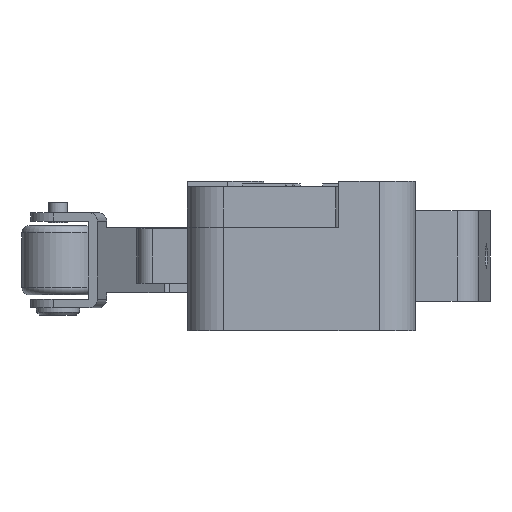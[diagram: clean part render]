
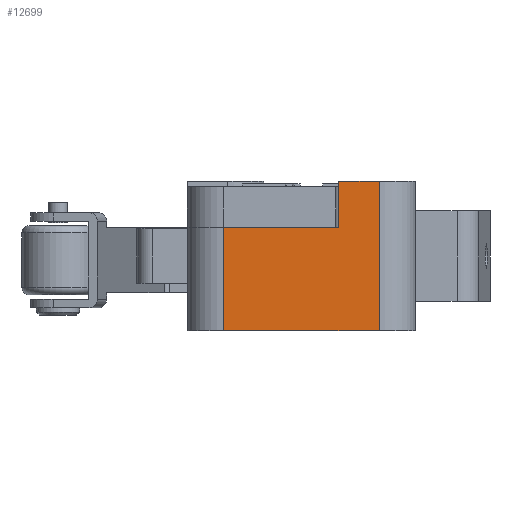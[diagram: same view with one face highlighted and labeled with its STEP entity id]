
A CAD part, left-side view. The second image highlights one B-rep face of the part: STEP entity #12699.
In plain terms, the highlighted planar face has unit normal (-1, 0, 0).
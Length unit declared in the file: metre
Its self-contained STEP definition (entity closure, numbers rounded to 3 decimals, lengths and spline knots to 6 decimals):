
#12558=CARTESIAN_POINT('',(-0.027238,-0.017123,0.033313));
#12559=VERTEX_POINT('',#12558);
#12593=CARTESIAN_POINT('',(-0.027238,-0.014323,0.033313));
#12594=VERTEX_POINT('',#12593);
#12597=CARTESIAN_POINT('',(-0.027238,-0.014323,0.033313));
#12598=DIRECTION('',(0.,-1.,0.));
#12599=VECTOR('',#12598,1.);
#12600=LINE('',#12597,#12599);
#12601=EDGE_CURVE('',#12594,#12559,#12600,.T.);
#12630=CARTESIAN_POINT('',(-0.027238,-0.017123,0.022913));
#12631=VERTEX_POINT('',#12630);
#12643=CARTESIAN_POINT('',(-0.027238,-0.017123,0.033313));
#12644=DIRECTION('',(0.,0.,-1.));
#12645=VECTOR('',#12644,1.);
#12646=LINE('',#12643,#12645);
#12647=EDGE_CURVE('',#12559,#12631,#12646,.T.);
#12660=CARTESIAN_POINT('',(-0.027238,-0.014323,0.033313));
#12661=DIRECTION('',(1.,0.,0.));
#12662=DIRECTION('',(0.,1.,0.));
#12663=AXIS2_PLACEMENT_3D('',#12660,#12661,#12662);
#12664=PLANE('',#12663);
#12665=CARTESIAN_POINT('',(-0.027238,-0.014323,0.022913));
#12666=DIRECTION('',(0.,-1.,0.));
#12667=VECTOR('',#12666,1.);
#12668=LINE('',#12665,#12667);
#12669=CARTESIAN_POINT('',(-0.027238,-0.006323,0.022913));
#12670=VERTEX_POINT('',#12669);
#12671=EDGE_CURVE('',#12670,#12631,#12668,.T.);
#12672=ORIENTED_EDGE('',*,*,#12671,.T.);
#12673=ORIENTED_EDGE('',*,*,#12647,.F.);
#12674=ORIENTED_EDGE('',*,*,#12601,.F.);
#12675=CARTESIAN_POINT('',(-0.027238,-0.014323,0.033313));
#12676=DIRECTION('',(0.,0.,-1.));
#12677=VECTOR('',#12676,1.);
#12678=LINE('',#12675,#12677);
#12679=CARTESIAN_POINT('',(-0.027238,-0.014323,0.030113));
#12680=VERTEX_POINT('',#12679);
#12681=EDGE_CURVE('',#12594,#12680,#12678,.T.);
#12682=ORIENTED_EDGE('',*,*,#12681,.T.);
#12683=CARTESIAN_POINT('',(-0.027238,-0.011723,0.030113));
#12684=DIRECTION('',(0.,-1.,0.));
#12685=VECTOR('',#12684,1.);
#12686=LINE('',#12683,#12685);
#12687=CARTESIAN_POINT('',(-0.027238,-0.006323,0.030113));
#12688=VERTEX_POINT('',#12687);
#12689=EDGE_CURVE('',#12688,#12680,#12686,.T.);
#12690=ORIENTED_EDGE('',*,*,#12689,.F.);
#12691=CARTESIAN_POINT('',(-0.027238,-0.006323,0.030113));
#12692=DIRECTION('',(0.,0.,-1.));
#12693=VECTOR('',#12692,1.);
#12694=LINE('',#12691,#12693);
#12695=EDGE_CURVE('',#12688,#12670,#12694,.T.);
#12696=ORIENTED_EDGE('',*,*,#12695,.T.);
#12697=EDGE_LOOP('',(#12672,#12673,#12674,#12682,#12690,#12696));
#12698=FACE_BOUND('',#12697,.T.);
#12699=ADVANCED_FACE('',(#12698),#12664,.F.);
